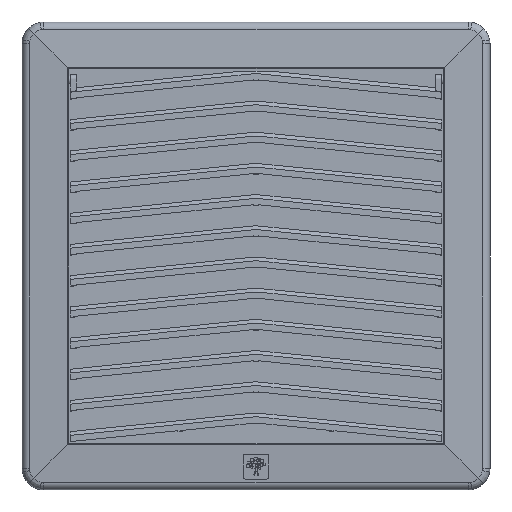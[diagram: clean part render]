
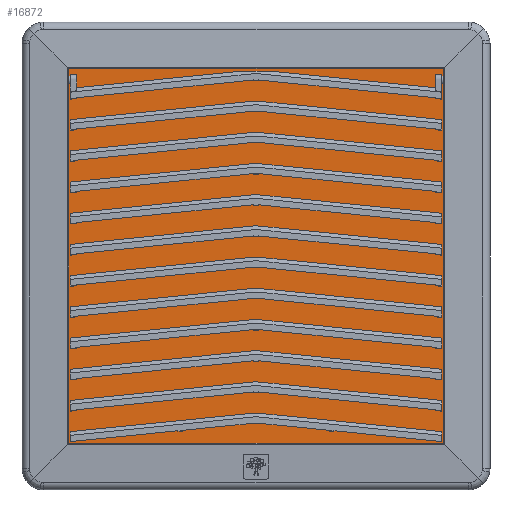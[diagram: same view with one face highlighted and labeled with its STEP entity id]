
A CAD part, top view. The second image highlights one B-rep face of the part: STEP entity #16872.
In plain terms, the highlighted planar face has unit normal (0, 0, 1).
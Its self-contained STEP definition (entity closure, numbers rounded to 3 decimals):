
#832 = CARTESIAN_POINT ( 'NONE',  ( -60.022, -60.022, 29.265 ) ) ;
#881 = FACE_OUTER_BOUND ( 'NONE', #16968, .T. ) ;
#1254 = CARTESIAN_POINT ( 'NONE',  ( 59.07, 60.022, 29.265 ) ) ;
#2819 = CARTESIAN_POINT ( 'NONE',  ( 60.022, -60.022, 29.265 ) ) ;
#3517 = LINE ( 'NONE', #1254, #28732 ) ;
#5271 = VECTOR ( 'NONE', #20478, 1000. ) ;
#6565 = CARTESIAN_POINT ( 'NONE',  ( 60.022, -59.07, 29.265 ) ) ;
#6884 = ORIENTED_EDGE ( 'NONE', *, *, #21543, .T. ) ;
#7290 = CARTESIAN_POINT ( 'NONE',  ( 59.07, -60.022, 29.265 ) ) ;
#7536 = DIRECTION ( 'NONE',  ( 1., 0., 0. ) ) ;
#7935 = CARTESIAN_POINT ( 'NONE',  ( -60.022, 60.022, 29.265 ) ) ;
#8116 = EDGE_CURVE ( 'NONE', #17353, #19398, #20449, .T. ) ;
#8864 = CARTESIAN_POINT ( 'NONE',  ( -60.022, -59.07, 29.265 ) ) ;
#9173 = LINE ( 'NONE', #8864, #5271 ) ;
#11800 = ORIENTED_EDGE ( 'NONE', *, *, #27755, .T. ) ;
#12878 = DIRECTION ( 'NONE',  ( -1., 0., 0. ) ) ;
#14815 = ORIENTED_EDGE ( 'NONE', *, *, #8116, .T. ) ;
#16501 = DIRECTION ( 'NONE',  ( 1., 0., 0. ) ) ;
#16872 = ADVANCED_FACE ( 'NONE', ( #881 ), #19014, .T. ) ;
#16906 = ORIENTED_EDGE ( 'NONE', *, *, #24867, .T. ) ;
#16968 = EDGE_LOOP ( 'NONE', ( #14815, #6884, #11800, #16906 ) ) ;
#17353 = VERTEX_POINT ( 'NONE', #2819 ) ;
#19014 = PLANE ( 'NONE',  #27275 ) ;
#19178 = VERTEX_POINT ( 'NONE', #832 ) ;
#19211 = VERTEX_POINT ( 'NONE', #7935 ) ;
#19398 = VERTEX_POINT ( 'NONE', #19852 ) ;
#19852 = CARTESIAN_POINT ( 'NONE',  ( 60.022, 60.022, 29.265 ) ) ;
#20449 = LINE ( 'NONE', #6565, #29416 ) ;
#20478 = DIRECTION ( 'NONE',  ( 0., -1., 0. ) ) ;
#20631 = VECTOR ( 'NONE', #16501, 1000. ) ;
#21543 = EDGE_CURVE ( 'NONE', #19398, #19211, #3517, .T. ) ;
#23713 = LINE ( 'NONE', #7290, #20631 ) ;
#24867 = EDGE_CURVE ( 'NONE', #19178, #17353, #23713, .T. ) ;
#27275 = AXIS2_PLACEMENT_3D ( 'NONE', #28344, #28193, #7536 ) ;
#27373 = DIRECTION ( 'NONE',  ( 0., 1., 0. ) ) ;
#27755 = EDGE_CURVE ( 'NONE', #19211, #19178, #9173, .T. ) ;
#28193 = DIRECTION ( 'NONE',  ( 0., 0., 1. ) ) ;
#28344 = CARTESIAN_POINT ( 'NONE',  ( 71.82, -71.817, 29.265 ) ) ;
#28732 = VECTOR ( 'NONE', #12878, 1000. ) ;
#29416 = VECTOR ( 'NONE', #27373, 1000. ) ;
